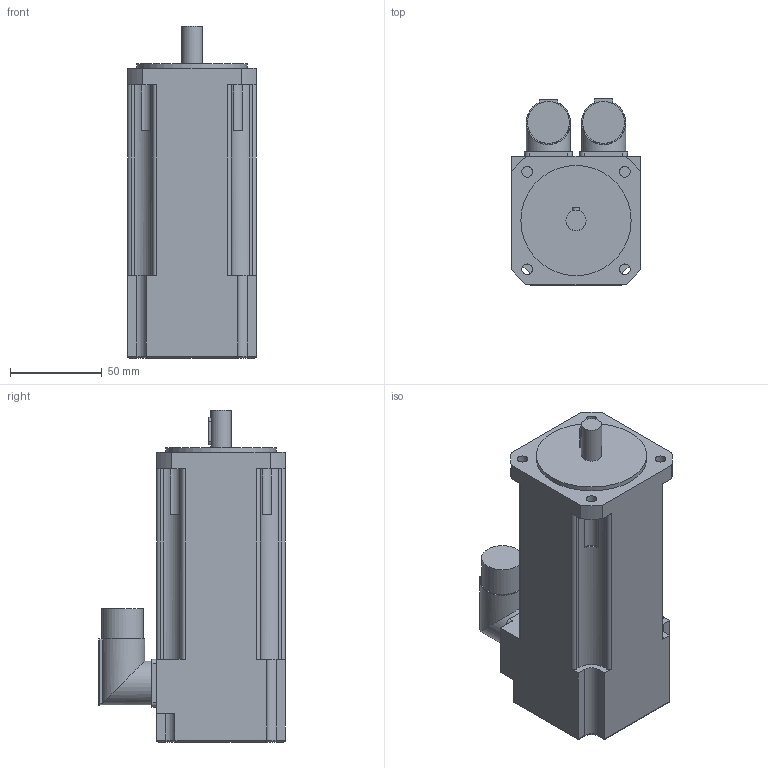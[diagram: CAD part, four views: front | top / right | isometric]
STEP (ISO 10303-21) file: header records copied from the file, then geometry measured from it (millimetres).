
FILE_DESCRIPTION(/* description */ (''),/* implementation_level */ '2;1');
FILE_NAME(/* name */ '\\Lafnas01\disegni\Archivi Lafert\3D\CAD 3D\MODELLI\Assiemi clienti\Serad\Modelli 3D Serad\B36Q\Encoder\Enc With brake\B36D6Qxx6BRx2033.ipt.stp',/* time_stamp */ '2015-09-07T10:49:18+02:00',/* author */ ('Pastrello Ylenia'),/* organization */ (''),/* preprocessor_version */ 'ST-DEVELOPER v15.6',/* originating_system */ 'Autodesk Inventor 2015',/* authorisation */ '');
FILE_SCHEMA (('AUTOMOTIVE_DESIGN { 1 0 10303 214 3 1 1 }'));
Length unit declared in the file: millimetre
Products named in the file (1): B36D6Qxx6BRx2033
Bounding box: 70 x 101.5 x 180.5 mm (x, y, z)
Volume: 752997.6 mm3; surface area: 62551.8 mm2
Topology: 1 solids, 1 shells, 121 faces, 322 edges, 210 vertices
Faces by surface type: plane 59, cylinder 58, torus 4
Full cylindrical faces by diameter (mm): 5.8 x4, 11 x1, 22.7 x2, 24 x2, 60 x1
Entity records: 3806 total; most frequent: CARTESIAN_POINT 678, DIRECTION 676, ORIENTED_EDGE 624, EDGE_CURVE 312, AXIS2_PLACEMENT_3D 244, VERTEX_POINT 210, LINE 188, VECTOR 188
